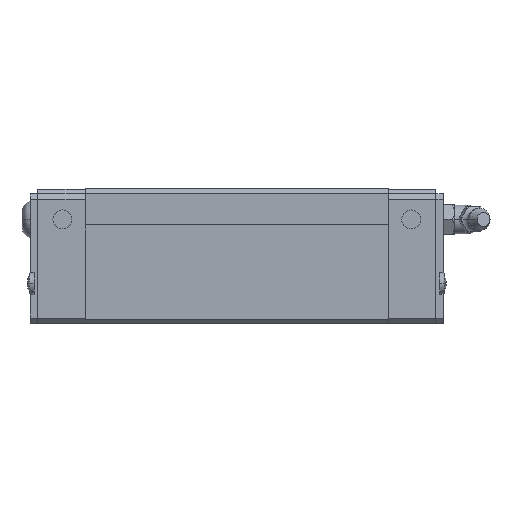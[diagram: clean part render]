
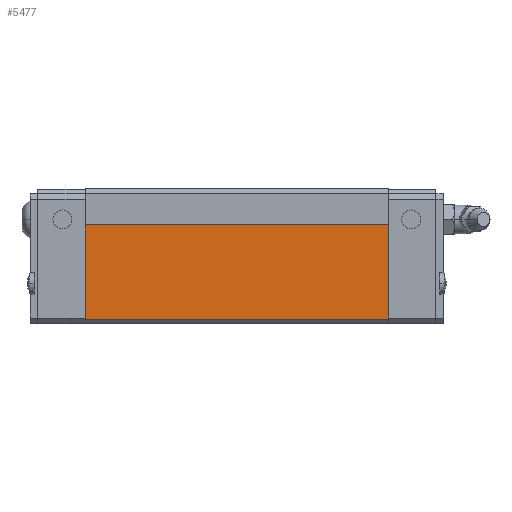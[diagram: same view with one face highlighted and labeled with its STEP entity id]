
A CAD part, left-side view. The second image highlights one B-rep face of the part: STEP entity #5477.
In plain terms, the highlighted planar face has unit normal (-1, 0, 0).
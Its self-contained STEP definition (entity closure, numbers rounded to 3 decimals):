
#2569=EDGE_CURVE('',#5217,#4663,#6412,.T.);
#3293=EDGE_CURVE('',#5217,#5457,#7215,.T.);
#3577=EDGE_CURVE('',#4363,#4663,#7536,.T.);
#4207=EDGE_CURVE('',#5457,#4363,#8229,.T.);
#4363=VERTEX_POINT('',#8396);
#4663=VERTEX_POINT('',#8718);
#5217=VERTEX_POINT('',#9323);
#5457=VERTEX_POINT('',#9583);
#5477=ADVANCED_FACE('',(#9606),#9607,.T.);
#6412=LINE('',#11044,#11045);
#7215=LINE('',#12348,#12349);
#7536=LINE('',#12877,#12878);
#8229=LINE('',#14076,#14077);
#8396=CARTESIAN_POINT('',(-34.5,98.0,12.0));
#8718=CARTESIAN_POINT('',(-34.5,98.0,38.0));
#9323=CARTESIAN_POINT('',(-34.5,15.0,38.0));
#9583=CARTESIAN_POINT('',(-34.5,15.0,12.0));
#9606=FACE_OUTER_BOUND('',#16386,.T.);
#9607=PLANE('',#16387);
#11044=CARTESIAN_POINT('',(-34.5,56.5,38.0));
#11045=VECTOR('',#17495,1.0);
#12348=CARTESIAN_POINT('',(-34.5,15.0,21.75));
#12349=VECTOR('',#18462,1.0);
#12877=CARTESIAN_POINT('',(-34.5,98.0,21.75));
#12878=VECTOR('',#18883,1.0);
#14076=CARTESIAN_POINT('',(-34.5,77.25,12.0));
#14077=VECTOR('',#19692,1.0);
#16386=EDGE_LOOP('',(#21029,#21030,#21031,#21032));
#16387=AXIS2_PLACEMENT_3D('',#21033,#21034,#21035);
#17495=DIRECTION('',(0.0,1.0,0.0));
#18462=DIRECTION('',(-0.0,-0.0,-1.0));
#18883=DIRECTION('',(0.0,0.0,1.0));
#19692=DIRECTION('',(0.0,1.0,-0.0));
#21029=ORIENTED_EDGE('',*,*,#3577,.F.);
#21030=ORIENTED_EDGE('',*,*,#4207,.F.);
#21031=ORIENTED_EDGE('',*,*,#3293,.F.);
#21032=ORIENTED_EDGE('',*,*,#2569,.T.);
#21033=CARTESIAN_POINT('',(-34.5,56.5,14.0));
#21034=DIRECTION('',(-1.0,0.0,0.0));
#21035=DIRECTION('',(0.0,0.0,1.0));
